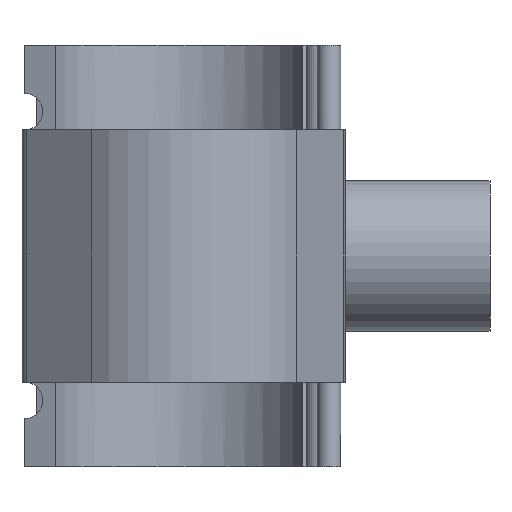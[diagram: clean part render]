
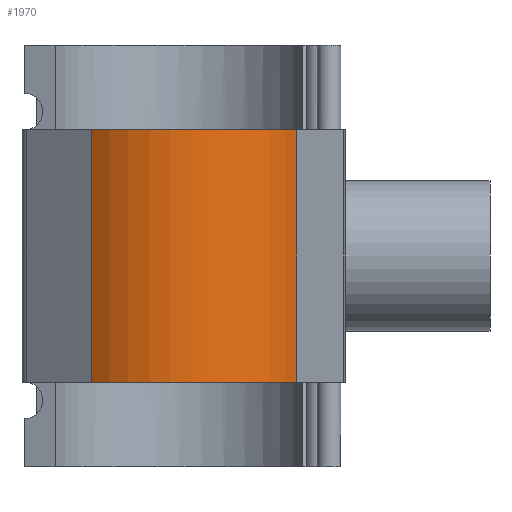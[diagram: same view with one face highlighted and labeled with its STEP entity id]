
A CAD part, front view. The second image highlights one B-rep face of the part: STEP entity #1970.
In plain terms, the highlighted cylindrical face has radius 56.65 mm (diameter 113.3 mm), a partial arc.
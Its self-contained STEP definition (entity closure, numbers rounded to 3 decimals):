
#222=FACE_OUTER_BOUND('',#349,.T.);
#349=EDGE_LOOP('',(#1804,#1805,#1806,#1807));
#449=CIRCLE('',#2183,56.65);
#452=CIRCLE('',#2187,56.65);
#614=LINE('',#3944,#772);
#618=LINE('',#3953,#776);
#772=VECTOR('',#2768,10.);
#776=VECTOR('',#2782,10.);
#957=VERTEX_POINT('',#3907);
#958=VERTEX_POINT('',#3909);
#961=VERTEX_POINT('',#3917);
#962=VERTEX_POINT('',#3919);
#1227=EDGE_CURVE('',#957,#958,#449,.T.);
#1232=EDGE_CURVE('',#961,#962,#452,.T.);
#1246=EDGE_CURVE('',#961,#958,#614,.T.);
#1250=EDGE_CURVE('',#957,#962,#618,.T.);
#1804=ORIENTED_EDGE('',*,*,#1250,.T.);
#1805=ORIENTED_EDGE('',*,*,#1232,.F.);
#1806=ORIENTED_EDGE('',*,*,#1246,.T.);
#1807=ORIENTED_EDGE('',*,*,#1227,.F.);
#1864=CYLINDRICAL_SURFACE('',#2202,56.65);
#1970=ADVANCED_FACE('',(#222),#1864,.T.);
#2183=AXIS2_PLACEMENT_3D('',#3910,#2730,#2731);
#2187=AXIS2_PLACEMENT_3D('',#3920,#2740,#2741);
#2202=AXIS2_PLACEMENT_3D('',#3954,#2783,#2784);
#2730=DIRECTION('center_axis',(0.,0.,-1.));
#2731=DIRECTION('ref_axis',(0.645,0.764,0.));
#2740=DIRECTION('center_axis',(0.,0.,1.));
#2741=DIRECTION('ref_axis',(0.645,0.764,0.));
#2768=DIRECTION('',(0.,0.,-1.));
#2782=DIRECTION('',(0.,0.,1.));
#2783=DIRECTION('center_axis',(0.,0.,1.));
#2784=DIRECTION('ref_axis',(0.645,0.764,0.));
#3907=CARTESIAN_POINT('',(49.276,-27.948,-52.8));
#3909=CARTESIAN_POINT('',(-36.562,-43.272,-52.8));
#3910=CARTESIAN_POINT('Origin',(0.,0.,
-52.8));
#3917=CARTESIAN_POINT('',(-36.562,-43.272,52.8));
#3919=CARTESIAN_POINT('',(49.276,-27.948,52.8));
#3920=CARTESIAN_POINT('Origin',(0.,0.,
52.8));
#3944=CARTESIAN_POINT('',(-36.562,-43.272,0.));
#3953=CARTESIAN_POINT('',(49.276,-27.948,0.));
#3954=CARTESIAN_POINT('Origin',(0.,0.,
0.));
